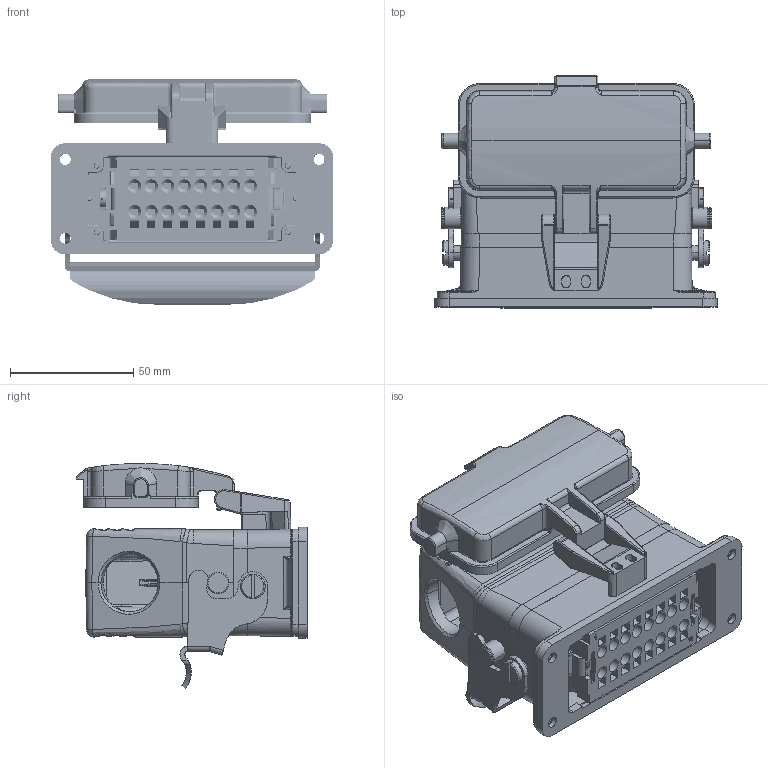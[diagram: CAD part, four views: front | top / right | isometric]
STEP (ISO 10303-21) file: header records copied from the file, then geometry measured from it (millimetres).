
FILE_DESCRIPTION (( 'STEP AP214' ), '1' );
FILE_NAME ('09116105125 HESH、16针、开孔带盖底座、侧出25套件.STEP', '2024-04-28T04:43:42', ( 'L' ), ( '' ), 'SwSTEP 2.0', 'SolidWorks 2019', '' );
FILE_SCHEMA (( 'AUTOMOTIVE_DESIGN' ));
Length unit declared in the file: millimetre
Products named in the file (5): HESH-016-F.stp; HESH-016-M.stp; 09116105125 HESH、16针、开孔带盖底座、侧出25套件; H16B-AD-LB.step; H16B-TS-RO-M25.step
Assembly tree (4 placements, depth 2):
  09116105125 HESH、16针、开孔带盖底座、侧出25套件
    HESH-016-M.stp
    HESH-016-F.stp
    H16B-AD-LB.step
    H16B-TS-RO-M25.step
Bounding box: 114.6 x 94.06 x 91.38 mm (x, y, z)
Volume: 242237.2 mm3; surface area: 140483.2 mm2
Topology: 4 solids, 9 shells, 4169 faces, 10855 edges, 6851 vertices
Faces by surface type: plane 2002, cylinder 1057, bspline 547, cone 457, torus 58, sphere 48
Entity records: 173548 total; most frequent: CARTESIAN_POINT 65645, ORIENTED_EDGE 21520, DIRECTION 17675, EDGE_CURVE 10760, VERTEX_POINT 6847, VECTOR 6123, LINE 6123, AXIS2_PLACEMENT_3D 5776
